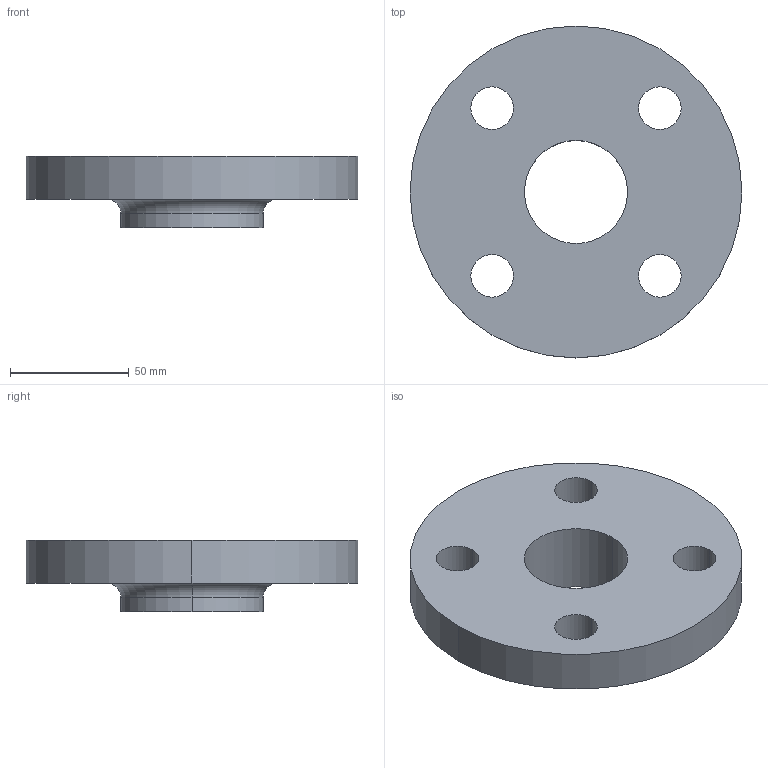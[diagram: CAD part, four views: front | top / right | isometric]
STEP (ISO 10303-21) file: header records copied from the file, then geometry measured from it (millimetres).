
FILE_DESCRIPTION (( 'STEP AP214' ), '1' );
FILE_NAME ('PN40 DN32 Type 12 - Type A Face.STEP', '2018-12-29T23:58:11', ( '' ), ( '' ), 'SwSTEP 2.0', 'SolidWorks 2019', '' );
FILE_SCHEMA (( 'AUTOMOTIVE_DESIGN' ));
Length unit declared in the file: millimetre
Products named in the file (1): PN40 DN32 Type 12 - Type A Face
Bounding box: 140 x 140 x 30 mm (x, y, z)
Volume: 249632.1 mm3; surface area: 43660.2 mm2
Topology: 1 solids, 1 shells, 19 faces, 46 edges, 30 vertices
Faces by surface type: cylinder 14, plane 3, torus 2
Entity records: 630 total; most frequent: DIRECTION 118, CARTESIAN_POINT 96, ORIENTED_EDGE 92, AXIS2_PLACEMENT_3D 52, EDGE_CURVE 46, CIRCLE 32, VERTEX_POINT 30, EDGE_LOOP 30
